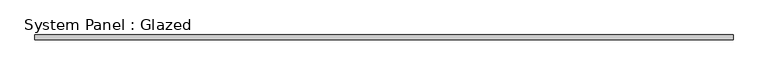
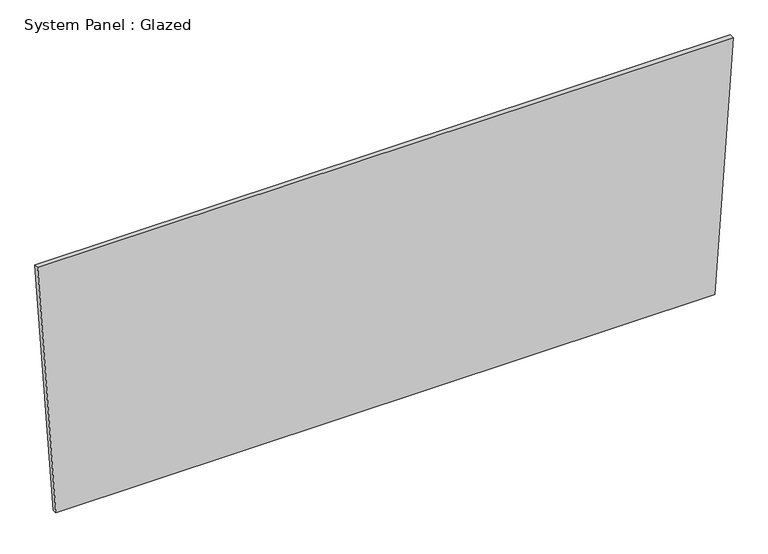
"""IFC4 building model written with IfcOpenShell, lengths in millimetres: plate geometry, System Panel : Glazed."""

from ifc_helpers import new_model, si_unit, frame, origin, place, context, project, spatial, polyline, outline, extrude, source, transform, mapped, element, save


def system_panel_glazed_11359935(model_context):
    return source(origin(), model_context, "Body", "SweptSolid", [
        extrude(outline(polyline([(0.0, -1806.5186503), (0.0, 1806.5186503), (1456.932163, 1906.3870138), (1456.932163, -1906.3870138), (0.0, -1806.5186503)])), frame((0.0, 19.05, 0.0), z_axis=(0.0, 1.0, 0.0), x_axis=(0.0, 0.0, 1.0)), (0.0, 0.0, 1.0), 25.4),
    ])


if __name__ == "__main__":
    model = new_model("IFC4")
    model_context = context("Model", 3, world=origin())
    ifc_project = project(units=[si_unit("LENGTHUNIT", "METRE", prefix="MILLI")], contexts=[model_context])
    site = spatial("IfcSite", under=ifc_project)
    building = spatial("IfcBuilding", under=site)
    placement = place(None, origin())
    system_panel_glazed_shape = system_panel_glazed_11359935(model_context)
    element("IfcPlate", 1, ObjectType="System Panel : Glazed", at=placement, inside=building, context=model_context, shape_type="MappedRepresentation", body=[
        mapped(system_panel_glazed_shape, transform((0.0, 0.0, 0.0), x_axis=(1.0, 0.0, 0.0), y_axis=(0.0, 1.0, 0.0), z_axis=(0.0, 0.0, 1.0))),
    ])
    save(model, "model.ifc")
